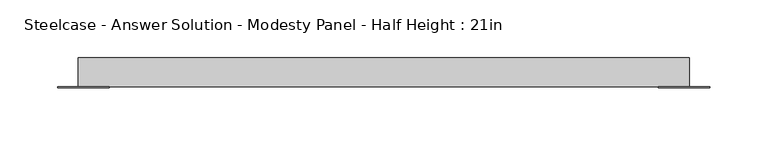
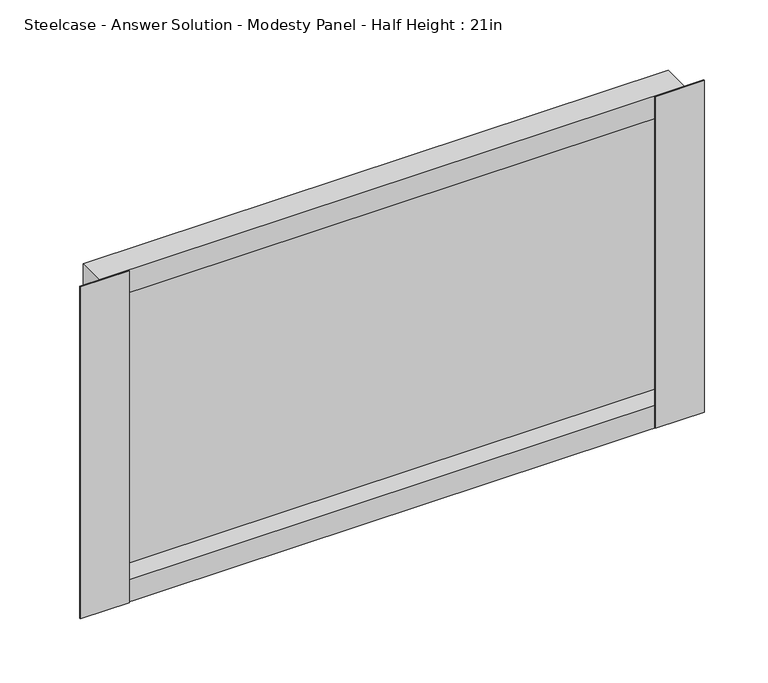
"""IFC4 building model written with IfcOpenShell, lengths in millimetres: furniture geometry, Steelcase - Answer Solution - Modesty Panel - Half Height : 21in."""

from ifc_helpers import new_model, si_unit, frame, origin, place, context, project, spatial, polyline, outline, extrude, faceted_brep, source, transform, mapped, element, save


def steelcase_answer_solution_modesty_panel_half_height_21in_395172fc(model_context):
    return source(origin(), model_context, "Body", "SolidModel", [
        extrude(outline(polyline([(1076.9400478, -14.2668826), (1076.9400478, -15.0593624), (1032.5248254, -15.0593624), (1032.5248254, -14.2668826), (1076.9400478, -14.2668826)])), frame((0.0, 0.0, 17.653), z_axis=(0.0, 0.0, 1.0), x_axis=(1.0, 0.0, 0.0)), (0.0, 0.0, 1.0), 317.5),
        extrude(outline(polyline([(556.9673392, -14.2668826), (556.9673392, -15.0593624), (512.5520826, -15.0593624), (512.5520826, -14.2668826), (556.9673392, -14.2668826)])), frame((0.0, 0.0, 17.653), z_axis=(0.0, 0.0, 1.0), x_axis=(1.0, 0.0, 0.0)), (0.0, 0.0, 1.0), 317.5),
        faceted_brep([(530.0780827, 10.9045177, 17.653), (530.0780827, -14.2668826, 17.653), (530.0780827, -14.2668826, 335.153), (530.0780827, 10.9045177, 335.153), (1059.4140827, -14.2668826, 17.653), (1059.4140827, 10.9045177, 17.653), (1059.4140827, 10.9045177, 335.153), (1059.4140827, -14.2668826, 335.153), (1058.6216165, 4.7831174, 39.243), (530.8705628, 4.7831174, 39.243), (530.8705628, -14.2668826, 39.243), (1058.6216165, -14.2668826, 39.243), (530.8705628, -14.2668826, 313.563), (1058.6216165, -14.2668826, 313.563), (530.8705628, 4.7831174, 313.563), (1058.6216165, 4.7831174, 313.563)], [[[0, 1, 2, 3]], [[4, 5, 6, 7]], [[8, 9, 10, 11]], [[0, 3, 6, 5]], [[4, 1, 0, 5]], [[2, 1, 4, 7], [10, 12, 13, 11]], [[3, 2, 7, 6]], [[14, 15, 13, 12]], [[9, 8, 15, 14]], [[12, 10, 9, 14]], [[11, 13, 15, 8]]]),
    ])


if __name__ == "__main__":
    model = new_model("IFC4")
    model_context = context("Model", 3, world=origin())
    ifc_project = project(units=[si_unit("LENGTHUNIT", "METRE", prefix="MILLI")], contexts=[model_context])
    site = spatial("IfcSite", under=ifc_project)
    building = spatial("IfcBuilding", under=site)
    placement = place(None, origin())
    steelcase_answer_solution_modesty_panel_half_height_21in_shape = steelcase_answer_solution_modesty_panel_half_height_21in_395172fc(model_context)
    element("IfcFurniture", 1, ObjectType="Steelcase - Answer Solution - Modesty Panel - Half Height : 21in", at=placement, inside=building, context=model_context, shape_type="MappedRepresentation", body=[
        mapped(steelcase_answer_solution_modesty_panel_half_height_21in_shape, transform((0.0, 0.0, 0.0), x_axis=(1.0, 0.0, 0.0), y_axis=(0.0, 1.0, 0.0), z_axis=(0.0, 0.0, 1.0))),
    ])
    save(model, "model.ifc")
